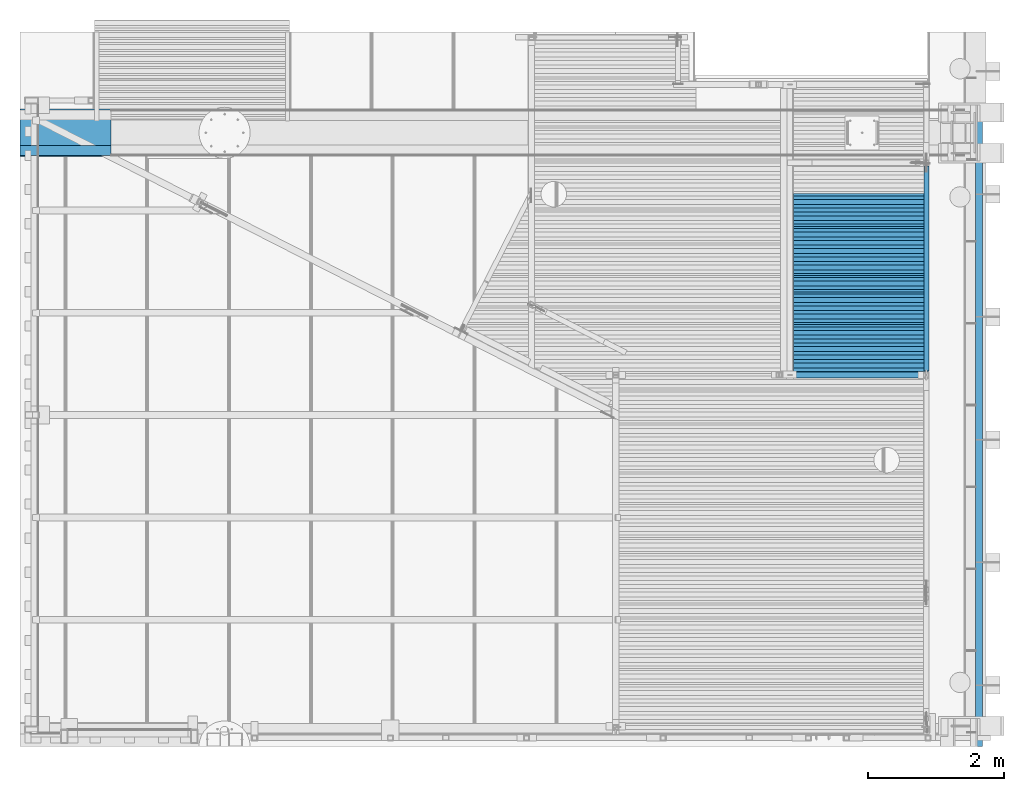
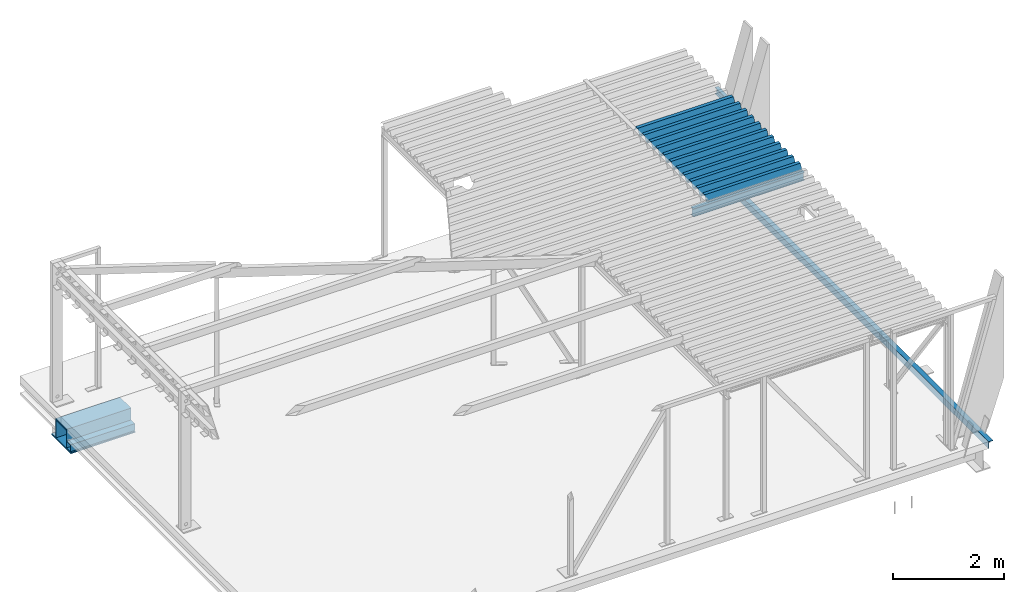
# One storey, part 11 of 30: 10 beams.
"""IFC2X3 building model written with IfcOpenShell, lengths in millimetres."""

from ifc_helpers import new_model, entity, si_unit, converted_unit, derived_unit, direction, frame, origin_with_axes, place, context, subcontext, project, spatial, faceted_brep, material, type_object, element, save


model = new_model("IFC2X3")

# Units and contexts
model_context = context("Model", 3, precision=0.01, world=frame((0.0, 4.29681676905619e-09, 0.0)), true_north=direction((4.01073788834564e-13, 1.0)))
plan_context = context("Plan", 3, precision=0.01, world=frame((0.0, 4.29681676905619e-09, 0.0)), true_north=direction((4.01073788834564e-13, 1.0)))
body_context = subcontext(model_context, "Body", "Model", "MODEL_VIEW")
ifc_project = project(units=[converted_unit("PLANEANGLEUNIT", "DEGREE", entity("IfcPositiveLengthMeasure", 0.0174532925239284), si_unit("PLANEANGLEUNIT", "RADIAN"), dimensions=[0, 0, 0, 0, 0, 0, 0]), si_unit("AREAUNIT", "SQUARE_METRE"), si_unit("LENGTHUNIT", "METRE", prefix="MILLI"), si_unit("MASSUNIT", "GRAM", prefix="KILO"), si_unit("POWERUNIT", "WATT"), si_unit("PRESSUREUNIT", "PASCAL"), si_unit("FORCEUNIT", "NEWTON", prefix="KILO"), si_unit("ELECTRICVOLTAGEUNIT", "VOLT"), si_unit("ELECTRICCURRENTUNIT", "AMPERE"), si_unit("THERMODYNAMICTEMPERATUREUNIT", "DEGREE_CELSIUS"), si_unit("TIMEUNIT", "SECOND"), si_unit("VOLUMEUNIT", "CUBIC_METRE"), derived_unit("LINEARVELOCITYUNIT", [(si_unit("LENGTHUNIT", "METRE"), 1), (si_unit("TIMEUNIT", "SECOND"), -1)]), derived_unit("VOLUMETRICFLOWRATEUNIT", [(si_unit("VOLUMEUNIT", "CUBIC_METRE"), 1), (si_unit("TIMEUNIT", "SECOND"), -1)]), derived_unit("THERMALTRANSMITTANCEUNIT", [(si_unit("POWERUNIT", "WATT"), 1), (si_unit("THERMODYNAMICTEMPERATUREUNIT", "KELVIN"), -1), (si_unit("AREAUNIT", "SQUARE_METRE"), -1)]), derived_unit("SOUNDPRESSUREUNIT", [(si_unit("PRESSUREUNIT", "PASCAL"), 1)])], contexts=[model_context, plan_context])

# Site, building, storey
site_placement = place(None, frame((0.0, -4.29681676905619e-09, 0.0), z_axis=(0.0, 0.0, 1.0), x_axis=(1.0, 0.0, 0.0)))
site = spatial("IfcSite", under=ifc_project, at=site_placement, Name="Gardermoen", CompositionType="ELEMENT")
building_placement = place(site_placement, frame((0.0, 4.29681676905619e-09, 0.0), z_axis=(0.0, 0.0, 1.0), x_axis=(1.0, 0.0, 0.0)))
building = spatial("IfcBuilding", under=site, at=building_placement, Name="TI", CompositionType="ELEMENT")
storey_placement = place(building_placement, origin_with_axes())
storey = spatial("IfcBuildingStorey", under=building, at=storey_placement, Name="F", CompositionType="ELEMENT", Elevation=0.0)

# Beams
ifc_material = material(Name="STEEL/S355J2H")
beam_type_1 = type_object("IfcBeamType", Name="IPE140", PredefinedType="NOTDEFINED")
beam_1_placement = place(storey_placement, frame((611296.990962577, 694465.06876901, 213629.999899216), z_axis=(0.0, 0.0, 1.0), x_axis=(0.0, 1.0, 0.0)))
element("IfcBeam", 1, at=beam_1_placement, inside=storey, type_object=beam_type_1, material=ifc_material, Name="STÅLBJELKE", ObjectType="IPE140", context=body_context, shape_type="Brep", body=[
    faceted_brep([(37.4962270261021, -2.34999990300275, 54.9961342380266), (37.4962268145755, 2.34999990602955, 54.9961342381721), (-1.16415321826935e-09, 2.34999990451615, 54.9987518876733), (-9.31322574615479e-10, -2.34999990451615, 54.9987518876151), (45.4967854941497, -2.34999990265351, 63.0999999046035), (45.4967852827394, 2.3499999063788, 63.0999999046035), (45.4972760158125, -36.4999999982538, 69.9999999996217), (45.4972727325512, 36.5000000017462, 69.9999999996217), (45.4967837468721, 36.5000000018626, 63.0999999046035), (45.4967870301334, -36.4999999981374, 63.0999999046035), (1.39698386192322e-09, -2.34999990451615, -55.0010458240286), (1.16415321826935e-09, 2.34999990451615, -55.0010458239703), (61.9985612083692, 2.34999990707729, -55.0053739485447), (61.9985617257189, -2.34999990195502, -55.0053739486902), (69.9980026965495, 2.34999990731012, -63.0999999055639), (69.9980032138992, -2.34999990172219, -63.0999999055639), (3045.95000494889, 2.35000002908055, -63.0999999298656), (3045.95001089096, 36.5000001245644, -63.0999999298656), (69.9979989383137, 36.500000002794, -63.0999999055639), (3045.949998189, -36.4999998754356, -63.0999999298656), (3045.95000413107, -2.34999977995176, -63.0999999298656), (69.998006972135, -36.499999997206, -63.0059324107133), (3045.94999820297, -36.4999998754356, -70.0000000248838), (69.9975187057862, -36.499999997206, -70.0000000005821), (3045.95001090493, 36.5000001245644, -70.0000000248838), (69.9975106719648, 36.500000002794, -70.0000000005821), (3045.95000469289, 2.35000002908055, 63.0999998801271), (3045.95001063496, 36.5000001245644, 63.0999998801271), (3045.95001062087, 36.5000001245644, 69.9999999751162), (3045.94999791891, -36.4999998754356, 69.9999999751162), (3045.949997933, -36.4999998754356, 63.0999998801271), (3045.95000387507, -2.34999977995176, 63.0999998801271)], [[[0, 1, 2, 3]], [[4, 5, 1, 0]], [[6, 7, 8, 5, 4, 9]], [[10, 11, 12, 13]], [[13, 12, 14, 15]], [[16, 17, 18, 14]], [[19, 20, 15, 21]], [[22, 19, 21, 23]], [[24, 22, 23, 25]], [[21, 15, 14, 18, 25, 23]], [[17, 24, 25, 18]], [[16, 26, 27, 28, 29, 30, 31, 20, 19, 22, 24, 17]], [[30, 29, 6, 9]], [[31, 30, 9, 4]], [[3, 10, 13, 15, 20, 31, 4, 0]], [[11, 10, 3, 2]], [[26, 16, 14, 12, 11, 2, 1, 5]], [[27, 26, 5, 8]], [[28, 27, 8, 7]], [[29, 28, 7, 6]]]),
])
beam_type_2 = type_object("IfcBeamType", Name="PLANNJA111", PredefinedType="NOTDEFINED")
beam_2_placement = place(storey_placement, frame((609339.641793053, 694827.496679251, 213755.499894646), z_axis=(0.0, 0.0, 1.0), x_axis=(1.0, 0.0, 0.0)))
element("IfcBeam", 2, at=beam_2_placement, inside=storey, type_object=beam_type_2, material=ifc_material, Name="STÅLBJELKE", ObjectType="PLANNJA111", context=body_context, shape_type="Brep", body=[
    faceted_brep([(-7.79982656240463e-09, 360.000000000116, -54.75), (-7.21774995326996e-09, 328.133911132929, -54.75), (1986.50014237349, 328.133911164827, -54.750000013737), (1986.50014237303, 360.000000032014, -54.750000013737), (-2.44472175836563e-09, 276.000000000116, 55.75), (1986.50014237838, 276.000000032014, 55.749999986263), (-1.28056854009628e-09, 204.000000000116, 55.75), (1986.50014237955, 204.000000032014, 55.749999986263), (-4.42378222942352e-09, 151.866088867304, -54.75), (1986.50014237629, 151.866088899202, -54.750000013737), (-3.37604433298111e-09, 88.1339111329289, -54.75), (1986.50014237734, 88.1339111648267, -54.750000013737), (1.39698386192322e-09, 36.0000000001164, 55.75), (1986.50014238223, 36.0000000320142, 55.749999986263), (2.56113708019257e-09, -35.9999999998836, 55.75), (1986.50014238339, -35.9999999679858, 55.749999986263), (-5.82076609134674e-10, -88.1339111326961, -54.75), (1986.50014238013, -88.1339111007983, -54.750000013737), (4.65661287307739e-10, -151.866088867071, -54.75), (1986.50014238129, -151.866088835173, -54.750000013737), (5.23868948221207e-09, -203.999999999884, 55.75), (1986.50014238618, -203.999999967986, 55.749999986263), (6.40284270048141e-09, -275.999999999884, 55.75), (1986.50014238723, -275.999999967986, 55.749999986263), (3.25962901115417e-09, -328.133911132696, -54.75), (1986.50014238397, -328.133911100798, -54.750000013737), (3.72529029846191e-09, -359.999999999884, -54.75), (1986.50014238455, -359.999999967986, -54.750000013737), (3.72529029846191e-09, -359.999999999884, -55.75), (1986.50014238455, -359.999999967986, -55.750000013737), (3.14321368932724e-09, -327.499999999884, -55.75), (1986.50014238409, -327.499999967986, -55.750000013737), (6.40284270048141e-09, -275.366088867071, 54.75), (1986.50014238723, -275.366088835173, 54.749999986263), (5.23868948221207e-09, -204.633911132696, 54.75), (1986.50014238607, -204.633911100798, 54.749999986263), (3.49245965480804e-10, -152.499999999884, -55.75), (1986.50014238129, -152.499999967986, -55.750000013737), (-6.98491930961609e-10, -87.4999999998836, -55.75), (1986.50014238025, -87.4999999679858, -55.750000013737), (2.56113708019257e-09, -35.3660888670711, 54.75), (1986.50014238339, -35.3660888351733, 54.749999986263), (1.39698386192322e-09, 35.3660888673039, 54.75), (1986.50014238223, 35.3660888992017, 54.749999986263), (-3.49245965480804e-09, 87.5000000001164, -55.75), (1986.50014237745, 87.5000000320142, -55.750000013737), (-4.54019755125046e-09, 152.500000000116, -55.75), (1986.5001423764, 152.500000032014, -55.750000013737), (-1.28056854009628e-09, 204.633911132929, 54.75), (1986.50014237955, 204.633911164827, 54.749999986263), (-2.44472175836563e-09, 275.366088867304, 54.75), (1986.50014237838, 275.366088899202, 54.749999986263), (-7.33416527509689e-09, 327.500000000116, -55.75), (1986.50014237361, 327.500000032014, -55.750000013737), (-7.79982656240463e-09, 360.000000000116, -55.75), (1986.50014237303, 360.000000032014, -55.750000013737)], [[[0, 1, 2, 3]], [[1, 4, 5, 2]], [[4, 6, 7, 5]], [[6, 8, 9, 7]], [[8, 10, 11, 9]], [[10, 12, 13, 11]], [[12, 14, 15, 13]], [[14, 16, 17, 15]], [[16, 18, 19, 17]], [[18, 20, 21, 19]], [[20, 22, 23, 21]], [[22, 24, 25, 23]], [[24, 26, 27, 25]], [[26, 28, 29, 27]], [[28, 30, 31, 29]], [[30, 32, 33, 31]], [[32, 34, 35, 33]], [[34, 36, 37, 35]], [[36, 38, 39, 37]], [[38, 40, 41, 39]], [[40, 42, 43, 41]], [[42, 44, 45, 43]], [[44, 46, 47, 45]], [[46, 48, 49, 47]], [[48, 50, 51, 49]], [[50, 52, 53, 51]], [[52, 54, 55, 53]], [[54, 0, 3, 55]], [[5, 7, 9, 11, 13, 15, 17, 19, 21, 23, 25, 27, 29, 31, 33, 35, 37, 39, 41, 43, 45, 47, 49, 51, 53, 55, 3, 2]], [[54, 52, 50, 48, 46, 44, 42, 40, 38, 36, 34, 32, 30, 28, 26, 24, 22, 20, 18, 16, 14, 12, 10, 8, 6, 4, 1, 0]]]),
])
beam_3_placement = place(storey_placement, frame((609339.641881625, 695307.496684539, 213755.499894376), z_axis=(0.0, 0.0, 1.0), x_axis=(1.0, 0.0, 0.0)))
element("IfcBeam", 3, at=beam_3_placement, inside=storey, type_object=beam_type_2, material=ifc_material, Name="STÅLBJELKE", ObjectType="PLANNJA111", context=body_context, shape_type="Brep", body=[
    faceted_brep([(-7.79982656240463e-09, 360.000000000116, -54.75), (-7.21774995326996e-09, 328.133911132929, -54.75), (1986.50014237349, 328.133911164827, -54.750000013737), (1986.50014237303, 360.000000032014, -54.750000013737), (-2.44472175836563e-09, 276.000000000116, 55.75), (1986.50014237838, 276.000000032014, 55.749999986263), (-1.28056854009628e-09, 204.000000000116, 55.75), (1986.50014237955, 204.000000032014, 55.749999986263), (-4.42378222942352e-09, 151.866088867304, -54.75), (1986.50014237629, 151.866088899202, -54.750000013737), (-3.37604433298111e-09, 88.1339111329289, -54.75), (1986.50014237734, 88.1339111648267, -54.750000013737), (1.39698386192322e-09, 36.0000000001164, 55.75), (1986.50014238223, 36.0000000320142, 55.749999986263), (2.56113708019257e-09, -35.9999999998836, 55.75), (1986.50014238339, -35.9999999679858, 55.749999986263), (-5.82076609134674e-10, -88.1339111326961, -54.75), (1986.50014238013, -88.1339111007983, -54.750000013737), (4.65661287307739e-10, -151.866088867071, -54.75), (1986.50014238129, -151.866088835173, -54.750000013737), (5.23868948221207e-09, -203.999999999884, 55.75), (1986.50014238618, -203.999999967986, 55.749999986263), (6.40284270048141e-09, -275.999999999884, 55.75), (1986.50014238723, -275.999999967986, 55.749999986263), (3.25962901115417e-09, -328.133911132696, -54.75), (1986.50014238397, -328.133911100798, -54.750000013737), (3.72529029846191e-09, -359.999999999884, -54.75), (1986.50014238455, -359.999999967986, -54.750000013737), (3.72529029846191e-09, -359.999999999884, -55.75), (1986.50014238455, -359.999999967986, -55.750000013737), (3.14321368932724e-09, -327.499999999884, -55.75), (1986.50014238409, -327.499999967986, -55.750000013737), (6.40284270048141e-09, -275.366088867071, 54.75), (1986.50014238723, -275.366088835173, 54.749999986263), (5.23868948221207e-09, -204.633911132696, 54.75), (1986.50014238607, -204.633911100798, 54.749999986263), (3.49245965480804e-10, -152.499999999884, -55.75), (1986.50014238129, -152.499999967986, -55.750000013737), (-6.98491930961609e-10, -87.4999999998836, -55.75), (1986.50014238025, -87.4999999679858, -55.750000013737), (2.56113708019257e-09, -35.3660888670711, 54.75), (1986.50014238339, -35.3660888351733, 54.749999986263), (1.39698386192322e-09, 35.3660888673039, 54.75), (1986.50014238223, 35.3660888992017, 54.749999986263), (-3.49245965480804e-09, 87.5000000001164, -55.75), (1986.50014237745, 87.5000000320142, -55.750000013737), (-4.54019755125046e-09, 152.500000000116, -55.75), (1986.5001423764, 152.500000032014, -55.750000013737), (-1.28056854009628e-09, 204.633911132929, 54.75), (1986.50014237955, 204.633911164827, 54.749999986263), (-2.44472175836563e-09, 275.366088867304, 54.75), (1986.50014237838, 275.366088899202, 54.749999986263), (-7.33416527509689e-09, 327.500000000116, -55.75), (1986.50014237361, 327.500000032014, -55.750000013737), (-7.79982656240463e-09, 360.000000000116, -55.75), (1986.50014237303, 360.000000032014, -55.750000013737)], [[[0, 1, 2, 3]], [[1, 4, 5, 2]], [[4, 6, 7, 5]], [[6, 8, 9, 7]], [[8, 10, 11, 9]], [[10, 12, 13, 11]], [[12, 14, 15, 13]], [[14, 16, 17, 15]], [[16, 18, 19, 17]], [[18, 20, 21, 19]], [[20, 22, 23, 21]], [[22, 24, 25, 23]], [[24, 26, 27, 25]], [[26, 28, 29, 27]], [[28, 30, 31, 29]], [[30, 32, 33, 31]], [[32, 34, 35, 33]], [[34, 36, 37, 35]], [[36, 38, 39, 37]], [[38, 40, 41, 39]], [[40, 42, 43, 41]], [[42, 44, 45, 43]], [[44, 46, 47, 45]], [[46, 48, 49, 47]], [[48, 50, 51, 49]], [[50, 52, 53, 51]], [[52, 54, 55, 53]], [[54, 0, 3, 55]], [[5, 7, 9, 11, 13, 15, 17, 19, 21, 23, 25, 27, 29, 31, 33, 35, 37, 39, 41, 43, 45, 47, 49, 51, 53, 55, 3, 2]], [[54, 52, 50, 48, 46, 44, 42, 40, 38, 36, 34, 32, 30, 28, 26, 24, 22, 20, 18, 16, 14, 12, 10, 8, 6, 4, 1, 0]]]),
])
beam_4_placement = place(storey_placement, frame((609339.641971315, 695787.496695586, 213755.499893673), z_axis=(0.0, 0.0, 1.0), x_axis=(1.0, 0.0, 0.0)))
element("IfcBeam", 4, at=beam_4_placement, inside=storey, type_object=beam_type_2, material=ifc_material, Name="STÅLBJELKE", ObjectType="PLANNJA111", context=body_context, shape_type="Brep", body=[
    faceted_brep([(-7.79982656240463e-09, 360.000000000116, -54.75), (-7.21774995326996e-09, 328.133911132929, -54.75), (1986.4999641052, 328.133911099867, -54.7499999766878), (1986.49996410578, 359.999999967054, -54.7499999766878), (-2.44472175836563e-09, 276.000000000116, 55.75), (1986.4999641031, 275.999999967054, 55.7500000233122), (-1.28056854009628e-09, 204.000000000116, 55.75), (1986.49996410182, 203.999999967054, 55.7500000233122), (-4.42378222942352e-09, 151.866088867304, -54.75), (1986.49996410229, 151.866088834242, -54.7499999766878), (-3.37604433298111e-09, 88.1339111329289, -54.75), (1986.49996410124, 88.1339110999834, -54.7499999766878), (1.39698386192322e-09, 36.0000000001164, 55.75), (1986.49996409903, 35.9999999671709, 55.7500000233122), (2.56113708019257e-09, -35.9999999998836, 55.75), (1986.49996409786, -36.0000000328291, 55.7500000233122), (-5.82076609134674e-10, -88.1339111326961, -54.75), (1986.49996409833, -88.1339111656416, -54.7499999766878), (4.65661287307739e-10, -151.866088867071, -54.75), (1986.49996409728, -151.866088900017, -54.7499999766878), (5.23868948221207e-09, -203.999999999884, 55.75), (1986.49996409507, -204.000000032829, 55.7500000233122), (6.40284270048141e-09, -275.999999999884, 55.75), (1986.49996409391, -276.000000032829, 55.7500000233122), (3.25962901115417e-09, -328.133911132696, -54.75), (1986.49996409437, -328.133911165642, -54.7499999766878), (3.72529029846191e-09, -359.999999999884, -54.75), (1986.49996409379, -360.000000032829, -54.7499999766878), (3.72529029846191e-09, -359.999999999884, -55.75), (1986.49996409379, -360.000000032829, -55.7499999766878), (3.14321368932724e-09, -327.499999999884, -55.75), (1986.49996409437, -327.500000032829, -55.7499999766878), (6.40284270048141e-09, -275.366088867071, 54.75), (1986.49996409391, -275.366088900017, 54.7500000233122), (5.23868948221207e-09, -204.633911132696, 54.75), (1986.49996409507, -204.633911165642, 54.7500000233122), (3.49245965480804e-10, -152.499999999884, -55.75), (1986.49996409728, -152.500000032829, -55.7499999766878), (-6.98491930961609e-10, -87.4999999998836, -55.75), (1986.49996409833, -87.5000000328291, -55.7499999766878), (2.56113708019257e-09, -35.3660888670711, 54.75), (1986.49996409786, -35.3660889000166, 54.7500000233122), (1.39698386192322e-09, 35.3660888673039, 54.75), (1986.49996409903, 35.3660888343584, 54.7500000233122), (-3.49245965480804e-09, 87.5000000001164, -55.75), (1986.49996410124, 87.4999999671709, -55.7499999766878), (-4.54019755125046e-09, 152.500000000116, -55.75), (1986.49996410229, 152.499999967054, -55.7499999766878), (-1.28056854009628e-09, 204.633911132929, 54.75), (1986.49996410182, 204.633911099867, 54.7500000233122), (-2.44472175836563e-09, 275.366088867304, 54.75), (1986.4999641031, 275.366088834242, 54.7500000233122), (-7.33416527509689e-09, 327.500000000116, -55.75), (1986.4999641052, 327.499999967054, -55.7499999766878), (-7.79982656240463e-09, 360.000000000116, -55.75), (1986.49996410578, 359.999999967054, -55.7499999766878)], [[[0, 1, 2, 3]], [[1, 4, 5, 2]], [[4, 6, 7, 5]], [[6, 8, 9, 7]], [[8, 10, 11, 9]], [[10, 12, 13, 11]], [[12, 14, 15, 13]], [[14, 16, 17, 15]], [[16, 18, 19, 17]], [[18, 20, 21, 19]], [[20, 22, 23, 21]], [[22, 24, 25, 23]], [[24, 26, 27, 25]], [[26, 28, 29, 27]], [[28, 30, 31, 29]], [[30, 32, 33, 31]], [[32, 34, 35, 33]], [[34, 36, 37, 35]], [[36, 38, 39, 37]], [[38, 40, 41, 39]], [[40, 42, 43, 41]], [[42, 44, 45, 43]], [[44, 46, 47, 45]], [[46, 48, 49, 47]], [[48, 50, 51, 49]], [[50, 52, 53, 51]], [[52, 54, 55, 53]], [[54, 0, 3, 55]], [[5, 7, 9, 11, 13, 15, 17, 19, 21, 23, 25, 27, 29, 31, 33, 35, 37, 39, 41, 43, 45, 47, 49, 51, 53, 55, 3, 2]], [[54, 52, 50, 48, 46, 44, 42, 40, 38, 36, 34, 32, 30, 28, 26, 24, 22, 20, 18, 16, 14, 12, 10, 8, 6, 4, 1, 0]]]),
])
beam_5_placement = place(storey_placement, frame((609339.642063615, 696267.49670136, 213755.499893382), z_axis=(0.0, 0.0, 1.0), x_axis=(1.0, 0.0, 0.0)))
element("IfcBeam", 5, at=beam_5_placement, inside=storey, type_object=beam_type_2, material=ifc_material, Name="STÅLBJELKE", ObjectType="PLANNJA111", context=body_context, shape_type="Brep", body=[
    faceted_brep([(-7.79982656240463e-09, 360.000000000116, -54.75), (-7.21774995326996e-09, 328.133911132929, -54.75), (1986.4999641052, 328.133911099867, -54.7499999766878), (1986.49996410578, 359.999999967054, -54.7499999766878), (-2.44472175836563e-09, 276.000000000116, 55.75), (1986.4999641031, 275.999999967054, 55.7500000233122), (-1.28056854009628e-09, 204.000000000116, 55.75), (1986.49996410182, 203.999999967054, 55.7500000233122), (-4.42378222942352e-09, 151.866088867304, -54.75), (1986.49996410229, 151.866088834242, -54.7499999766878), (-3.37604433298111e-09, 88.1339111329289, -54.75), (1986.49996410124, 88.1339110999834, -54.7499999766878), (1.39698386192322e-09, 36.0000000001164, 55.75), (1986.49996409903, 35.9999999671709, 55.7500000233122), (2.56113708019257e-09, -35.9999999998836, 55.75), (1986.49996409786, -36.0000000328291, 55.7500000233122), (-5.82076609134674e-10, -88.1339111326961, -54.75), (1986.49996409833, -88.1339111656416, -54.7499999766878), (4.65661287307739e-10, -151.866088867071, -54.75), (1986.49996409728, -151.866088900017, -54.7499999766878), (5.23868948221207e-09, -203.999999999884, 55.75), (1986.49996409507, -204.000000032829, 55.7500000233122), (6.40284270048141e-09, -275.999999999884, 55.75), (1986.49996409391, -276.000000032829, 55.7500000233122), (3.25962901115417e-09, -328.133911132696, -54.75), (1986.49996409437, -328.133911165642, -54.7499999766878), (3.72529029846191e-09, -359.999999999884, -54.75), (1986.49996409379, -360.000000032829, -54.7499999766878), (3.72529029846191e-09, -359.999999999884, -55.75), (1986.49996409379, -360.000000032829, -55.7499999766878), (3.14321368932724e-09, -327.499999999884, -55.75), (1986.49996409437, -327.500000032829, -55.7499999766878), (6.40284270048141e-09, -275.366088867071, 54.75), (1986.49996409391, -275.366088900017, 54.7500000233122), (5.23868948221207e-09, -204.633911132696, 54.75), (1986.49996409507, -204.633911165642, 54.7500000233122), (3.49245965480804e-10, -152.499999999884, -55.75), (1986.49996409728, -152.500000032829, -55.7499999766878), (-6.98491930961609e-10, -87.4999999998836, -55.75), (1986.49996409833, -87.5000000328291, -55.7499999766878), (2.56113708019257e-09, -35.3660888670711, 54.75), (1986.49996409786, -35.3660889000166, 54.7500000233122), (1.39698386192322e-09, 35.3660888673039, 54.75), (1986.49996409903, 35.3660888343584, 54.7500000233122), (-3.49245965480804e-09, 87.5000000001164, -55.75), (1986.49996410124, 87.4999999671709, -55.7499999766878), (-4.54019755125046e-09, 152.500000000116, -55.75), (1986.49996410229, 152.499999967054, -55.7499999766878), (-1.28056854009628e-09, 204.633911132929, 54.75), (1986.49996410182, 204.633911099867, 54.7500000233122), (-2.44472175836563e-09, 275.366088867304, 54.75), (1986.4999641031, 275.366088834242, 54.7500000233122), (-7.33416527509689e-09, 327.500000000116, -55.75), (1986.4999641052, 327.499999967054, -55.7499999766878), (-7.79982656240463e-09, 360.000000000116, -55.75), (1986.49996410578, 359.999999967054, -55.7499999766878)], [[[0, 1, 2, 3]], [[1, 4, 5, 2]], [[4, 6, 7, 5]], [[6, 8, 9, 7]], [[8, 10, 11, 9]], [[10, 12, 13, 11]], [[12, 14, 15, 13]], [[14, 16, 17, 15]], [[16, 18, 19, 17]], [[18, 20, 21, 19]], [[20, 22, 23, 21]], [[22, 24, 25, 23]], [[24, 26, 27, 25]], [[26, 28, 29, 27]], [[28, 30, 31, 29]], [[30, 32, 33, 31]], [[32, 34, 35, 33]], [[34, 36, 37, 35]], [[36, 38, 39, 37]], [[38, 40, 41, 39]], [[40, 42, 43, 41]], [[42, 44, 45, 43]], [[44, 46, 47, 45]], [[46, 48, 49, 47]], [[48, 50, 51, 49]], [[50, 52, 53, 51]], [[52, 54, 55, 53]], [[54, 0, 3, 55]], [[5, 7, 9, 11, 13, 15, 17, 19, 21, 23, 25, 27, 29, 31, 33, 35, 37, 39, 41, 43, 45, 47, 49, 51, 53, 55, 3, 2]], [[54, 52, 50, 48, 46, 44, 42, 40, 38, 36, 34, 32, 30, 28, 26, 24, 22, 20, 18, 16, 14, 12, 10, 8, 6, 4, 1, 0]]]),
])
beam_6_placement = place(storey_placement, frame((609339.642158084, 696747.496726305, 213755.499892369), z_axis=(0.0, 0.0, 1.0), x_axis=(1.0, 0.0, 0.0)))
element("IfcBeam", 6, at=beam_6_placement, inside=storey, type_object=beam_type_2, material=ifc_material, Name="STÅLBJELKE", ObjectType="PLANNJA111", context=body_context, shape_type="Brep", body=[
    faceted_brep([(-7.79982656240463e-09, 360.000000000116, -54.75), (-7.21774995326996e-09, 328.133911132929, -54.75), (1986.4999641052, 328.133911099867, -54.7499999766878), (1986.49996410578, 359.999999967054, -54.7499999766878), (-2.44472175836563e-09, 276.000000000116, 55.75), (1986.4999641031, 275.999999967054, 55.7500000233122), (-1.28056854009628e-09, 204.000000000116, 55.75), (1986.49996410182, 203.999999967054, 55.7500000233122), (-4.42378222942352e-09, 151.866088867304, -54.75), (1986.49996410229, 151.866088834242, -54.7499999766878), (-3.37604433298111e-09, 88.1339111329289, -54.75), (1986.49996410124, 88.1339110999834, -54.7499999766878), (1.39698386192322e-09, 36.0000000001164, 55.75), (1986.49996409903, 35.9999999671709, 55.7500000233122), (2.56113708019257e-09, -35.9999999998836, 55.75), (1986.49996409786, -36.0000000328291, 55.7500000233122), (-5.82076609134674e-10, -88.1339111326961, -54.75), (1986.49996409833, -88.1339111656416, -54.7499999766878), (4.65661287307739e-10, -151.866088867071, -54.75), (1986.49996409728, -151.866088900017, -54.7499999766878), (5.23868948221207e-09, -203.999999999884, 55.75), (1986.49996409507, -204.000000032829, 55.7500000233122), (6.40284270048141e-09, -275.999999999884, 55.75), (1986.49996409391, -276.000000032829, 55.7500000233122), (3.25962901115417e-09, -328.133911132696, -54.75), (1986.49996409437, -328.133911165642, -54.7499999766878), (3.72529029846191e-09, -359.999999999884, -54.75), (1986.49996409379, -360.000000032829, -54.7499999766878), (3.72529029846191e-09, -359.999999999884, -55.75), (1986.49996409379, -360.000000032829, -55.7499999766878), (3.14321368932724e-09, -327.499999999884, -55.75), (1986.49996409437, -327.500000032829, -55.7499999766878), (6.40284270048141e-09, -275.366088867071, 54.75), (1986.49996409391, -275.366088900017, 54.7500000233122), (5.23868948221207e-09, -204.633911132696, 54.75), (1986.49996409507, -204.633911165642, 54.7500000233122), (3.49245965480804e-10, -152.499999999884, -55.75), (1986.49996409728, -152.500000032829, -55.7499999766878), (-6.98491930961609e-10, -87.4999999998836, -55.75), (1986.49996409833, -87.5000000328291, -55.7499999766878), (2.56113708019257e-09, -35.3660888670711, 54.75), (1986.49996409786, -35.3660889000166, 54.7500000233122), (1.39698386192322e-09, 35.3660888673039, 54.75), (1986.49996409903, 35.3660888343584, 54.7500000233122), (-3.49245965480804e-09, 87.5000000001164, -55.75), (1986.49996410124, 87.4999999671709, -55.7499999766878), (-4.54019755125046e-09, 152.500000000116, -55.75), (1986.49996410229, 152.499999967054, -55.7499999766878), (-1.28056854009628e-09, 204.633911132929, 54.75), (1986.49996410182, 204.633911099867, 54.7500000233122), (-2.44472175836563e-09, 275.366088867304, 54.75), (1986.4999641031, 275.366088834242, 54.7500000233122), (-7.33416527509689e-09, 327.500000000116, -55.75), (1986.4999641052, 327.499999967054, -55.7499999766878), (-7.79982656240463e-09, 360.000000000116, -55.75), (1986.49996410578, 359.999999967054, -55.7499999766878)], [[[0, 1, 2, 3]], [[1, 4, 5, 2]], [[4, 6, 7, 5]], [[6, 8, 9, 7]], [[8, 10, 11, 9]], [[10, 12, 13, 11]], [[12, 14, 15, 13]], [[14, 16, 17, 15]], [[16, 18, 19, 17]], [[18, 20, 21, 19]], [[20, 22, 23, 21]], [[22, 24, 25, 23]], [[24, 26, 27, 25]], [[26, 28, 29, 27]], [[28, 30, 31, 29]], [[30, 32, 33, 31]], [[32, 34, 35, 33]], [[34, 36, 37, 35]], [[36, 38, 39, 37]], [[38, 40, 41, 39]], [[40, 42, 43, 41]], [[42, 44, 45, 43]], [[44, 46, 47, 45]], [[46, 48, 49, 47]], [[48, 50, 51, 49]], [[50, 52, 53, 51]], [[52, 54, 55, 53]], [[54, 0, 3, 55]], [[5, 7, 9, 11, 13, 15, 17, 19, 21, 23, 25, 27, 29, 31, 33, 35, 37, 39, 41, 43, 45, 47, 49, 51, 53, 55, 3, 2]], [[54, 52, 50, 48, 46, 44, 42, 40, 38, 36, 34, 32, 30, 28, 26, 24, 22, 20, 18, 16, 14, 12, 10, 8, 6, 4, 1, 0]]]),
])
beam_type_3 = type_object("IfcBeamType", Name="IPE180", PredefinedType="NOTDEFINED")
beam_7_placement = place(storey_placement, frame((611329.639109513, 694450.076266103, 213609.999698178), z_axis=(0.0, 0.0, 1.0), x_axis=(-0.999999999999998, 5.80000057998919e-08, 0.0)))
element("IfcBeam", 7, at=beam_7_placement, inside=storey, type_object=beam_type_3, material=ifc_material, Name="STÅLBJELKE", ObjectType="IPE180", context=body_context, shape_type="Brep", body=[
    faceted_brep([(4.19095158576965e-09, 45.5000000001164, -90.0000000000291), (3.84170562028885e-09, 45.5000000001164, -82.0000000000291), (2308.29901321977, 45.5000000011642, -82.0000000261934), (2308.29901322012, 45.5000000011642, -90.0000000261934), (3.84170562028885e-09, 2.65000009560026, -82.0000000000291), (2308.29901321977, 2.650000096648, -82.0000000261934), (-3.84170562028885e-09, 2.65000009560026, 81.9999999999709), (2308.29901321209, 2.650000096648, 81.9999999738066), (-3.84170562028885e-09, 45.5000000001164, 82.0), (2308.29901321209, 45.5000000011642, 81.9999999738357), (-4.19095158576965e-09, 45.5000000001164, 90.0), (2308.29901321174, 45.5000000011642, 89.9999999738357), (-4.07453626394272e-09, -45.5, 89.9999999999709), (2308.29901321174, -45.4999999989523, 89.9999999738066), (-3.72529029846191e-09, -45.5, 81.9999999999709), (2308.29901321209, -45.4999999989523, 81.9999999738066), (-3.72529029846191e-09, -2.65000009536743, 81.9999999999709), (2308.29901321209, -2.65000009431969, 81.9999999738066), (3.95812094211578e-09, -2.65000009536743, -82.0000000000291), (2308.29901321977, -2.65000009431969, -82.0000000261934), (3.95812094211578e-09, -45.5, -82.0000000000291), (2308.29901321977, -45.4999999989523, -82.0000000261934), (4.30736690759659e-09, -45.5, -90.0000000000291), (2308.29901322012, -45.4999999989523, -90.0000000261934)], [[[0, 1, 2, 3]], [[1, 4, 5, 2]], [[4, 6, 7, 5]], [[6, 8, 9, 7]], [[8, 10, 11, 9]], [[10, 12, 13, 11]], [[12, 14, 15, 13]], [[14, 16, 17, 15]], [[16, 18, 19, 17]], [[18, 20, 21, 19]], [[20, 22, 23, 21]], [[22, 0, 3, 23]], [[5, 7, 9, 11, 13, 15, 17, 19, 21, 23, 3, 2]], [[22, 20, 18, 16, 14, 12, 10, 8, 6, 4, 1, 0]]]),
])
beam_type_4 = type_object("IfcBeamType", Name="L100*150*10", PredefinedType="NOTDEFINED")
beam_8_placement = place(storey_placement, frame((612065.002274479, 669730.045636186, 210755.00000009), z_axis=(1.0, 0.0, 0.0), x_axis=(0.0, 1.0, 0.0)))
element("IfcBeam", 8, at=beam_8_placement, inside=storey, type_object=beam_type_4, Name="STÅLBJELKE", ObjectType="L100*150*10", context=body_context, shape_type="Brep", body=[
    faceted_brep([(29745.4543638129, -75.0, -50.000001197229), (29745.4543638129, 75.0, -50.000001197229), (19269.954363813, 75.0, -50.0000007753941), (19269.954363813, -75.0, -50.0000007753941), (29745.4543638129, -75.0, -40.0000011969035), (19269.954363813, -75.0, -40.0000007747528), (29745.4543638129, 65.0, -40.0000011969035), (19269.954363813, 65.0, -40.0000007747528), (29745.4543638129, 65.0, 49.9999988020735), (19269.954363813, 65.0, 49.9999992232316), (29745.4543638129, 75.0, 49.9999988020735), (19269.954363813, 75.0, 49.9999992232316)], [[[0, 1, 2, 3]], [[4, 0, 3, 5]], [[6, 4, 5, 7]], [[8, 6, 7, 9]], [[1, 10, 11, 2]], [[10, 8, 9, 11]], [[4, 6, 8, 10, 1, 0]], [[11, 9, 7, 5, 3, 2]]], orient=[[False], [False], [False], [False], [False], [False], [False], [False]]),
])
beam_type_5 = type_object("IfcBeamType", Name="RHS150*5", PredefinedType="NOTDEFINED")
beam_9_placement = place(storey_placement, frame((599335.019766, 697739.995625, 210340.0), z_axis=(5.80000057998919e-08, 0.999999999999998, 0.0), x_axis=(-0.999999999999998, 5.80000057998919e-08, 0.0)))
element("IfcBeam", 9, at=beam_9_placement, inside=storey, type_object=beam_type_5, Name="STÅLBJELKE", ObjectType="RHS150*5", context=body_context, shape_type="Brep", body=[
    faceted_brep([(1335.01966134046, 70.0, -70.0), (1335.01966134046, -70.0, -70.0), (7.27595761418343e-10, -70.0, -70.0), (-7.27595761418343e-10, 70.0, -70.0), (1335.01967845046, -70.0, 70.0), (7.27595761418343e-10, -70.0, 70.0), (1335.01966946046, 70.0, 70.0), (-7.27595761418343e-10, 70.0, 70.0), (1335.01967845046, 75.0, -75.0), (1335.01967845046, 75.0, 75.0), (0.0, 75.0, 75.0), (0.0, 75.0, -75.0), (1335.01966975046, -75.0, 75.0), (0.0, -75.0, 75.0), (1335.01967845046, -75.0, -75.0), (0.0, -75.0, -75.0), (1335.01967845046, -75.0, 75.0), (1335.01967845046, 70.0, 70.0), (1335.01967845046, -70.0, -70.0), (1335.01967845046, 70.0, -70.0)], [[[0, 1, 2, 3]], [[1, 4, 5, 2]], [[4, 6, 7, 5]], [[6, 0, 3, 7]], [[8, 9, 10, 11]], [[9, 12, 13, 10]], [[12, 14, 15, 13]], [[14, 8, 11, 15]], [[11, 10, 13, 15], [3, 2, 5, 7]], [[14, 16, 9, 8], [17, 4, 18, 19]]], orient=[[False], [False], [False], [False], [False], [False], [False], [False], [False, False], [False, False]]),
])
beam_type_6 = type_object("IfcBeamType", Name="HQ420*15-35*370-25*700", PredefinedType="NOTDEFINED")
beam_10_placement = place(storey_placement, frame((584664.999766, 697999.995625, 210450.0), z_axis=(0.0, 0.0, 1.0), x_axis=(1.0, 0.0, 0.0)))
element("IfcBeam", 10, at=beam_10_placement, inside=storey, type_object=beam_type_6, Name="STÅLBJELKE", ObjectType="HQ420*15-35*370-25*700", context=body_context, shape_type="Brep", body=[
    faceted_brep([(13335.0002339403, -185.0, -197.5), (13335.0002339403, 185.0, -197.5), (14670.0, 185.0, -197.5), (14670.0, -185.0, -197.5), (13335.0002339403, -185.0, 187.5), (14670.0, -185.0, 187.5), (13335.0002339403, 185.0, 187.5), (14670.0, 185.0, 187.5), (13335.0002339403, 350.0, -197.5), (13335.0002339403, 350.0, -222.5), (14670.0, 350.0, -222.5), (14670.0, 350.0, -197.5), (13335.0002339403, 200.0, -197.5), (14670.0, 200.0, -197.5), (13335.0002339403, 200.0, 222.5), (14670.0, 200.0, 222.5), (13335.0002339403, -200.0, 222.5), (14670.0, -200.0, 222.5), (13335.0002339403, -200.0, -197.5), (14670.0, -200.0, -197.5), (13335.0002339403, -350.0, -197.5), (14670.0, -350.0, -197.5), (13335.0002339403, -350.0, -222.5), (14670.0, -350.0, -222.5)], [[[0, 1, 2, 3]], [[4, 0, 3, 5]], [[6, 4, 5, 7]], [[1, 6, 7, 2]], [[8, 9, 10, 11]], [[12, 8, 11, 13]], [[14, 12, 13, 15]], [[16, 14, 15, 17]], [[18, 16, 17, 19]], [[20, 18, 19, 21]], [[22, 20, 21, 23]], [[9, 22, 23, 10]], [[11, 10, 23, 21, 19, 17, 15, 13], [3, 2, 7, 5]], [[12, 14, 16, 18, 20, 22, 9, 8], [4, 6, 1, 0]]], orient=[[False], [False], [False], [False], [False], [False], [False], [False], [False], [False], [False], [False], [False, False], [False, False]]),
])

save(model, "model.ifc")
